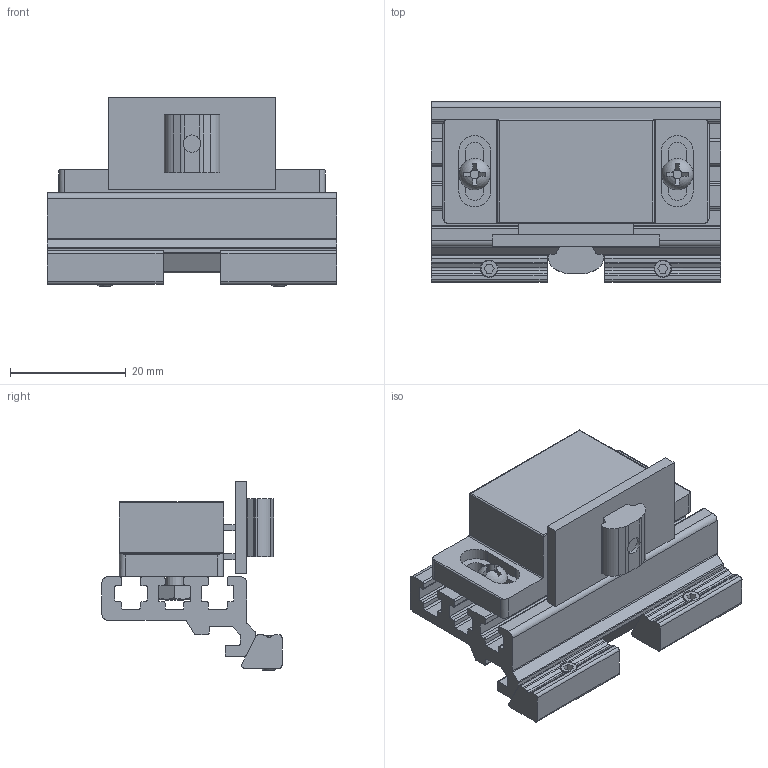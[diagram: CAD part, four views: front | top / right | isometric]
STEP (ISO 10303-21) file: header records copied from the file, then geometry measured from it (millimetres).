
FILE_DESCRIPTION(('STEP AP214'),'1');
FILE_NAME('MD2B-S.stp','2017-04-24T08:49:10',(' '),(' '),'Spatial InterOp 3D',' ',' ');
FILE_SCHEMA(('automotive_design'));
Length unit declared in the file: millimetre
Products named in the file (13): MD2B-N; MD4B-N; ___; 受け板; ねじ: 皿頭 - M3.0 x 6.0; NF25-M3; MD2B-S; ST2S-L50; M3*8押しねじ
Assembly tree (16 placements, depth 4):
  MD2B-S
    MD2B-N
      MD4B-N
      (unnamed)  x2
      (unnamed)  x2
      ___
        受け板
        ねじ: 皿頭 - M3.0 x 6.0
        NF25-M3
    ST2S-L50
      (unnamed)  x2
      M3*8押しねじ  x2
      ST2S-L50
Bounding box: 50 x 31.1 x 32.7 mm (x, y, z)
Volume: 17375.4 mm3; surface area: 13192.3 mm2
Topology: 13 solids, 13 shells, 388 faces, 1033 edges, 678 vertices
Faces by surface type: plane 253, cylinder 122, cone 11, sphere 2
Full cylindrical faces by diameter (mm): 3 x7, 4 x1
Entity records: 12340 total; most frequent: CARTESIAN_POINT 1817, DIRECTION 1662, ORIENTED_EDGE 1618, EDGE_CURVE 809, LINE 566, VECTOR 566, AXIS2_PLACEMENT_3D 548, VERTEX_POINT 539
